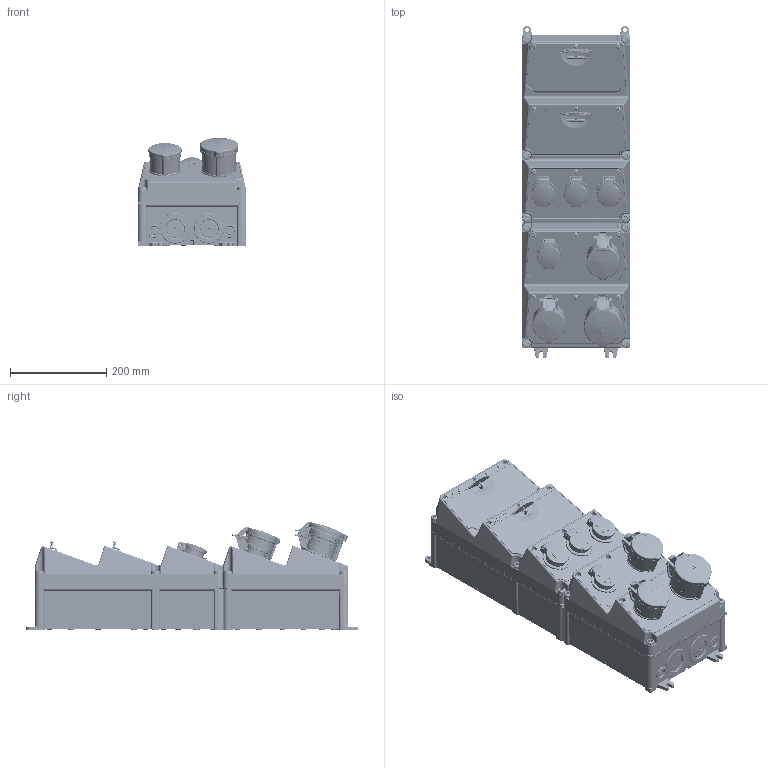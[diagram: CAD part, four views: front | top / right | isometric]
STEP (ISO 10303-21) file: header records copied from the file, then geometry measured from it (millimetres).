
FILE_DESCRIPTION((''),'2;1');
FILE_NAME('950007-2_ASM_1_ASM','2018-06-12T',('hoffmannf'),('MENNEKES'),'PRO/ENGINEER BY PARAMETRIC TECHNOLOGY CORPORATION, 2015440','PRO/ENGINEER BY PARAMETRIC TECHNOLOGY CORPORATION, 2015440','');
FILE_SCHEMA(('AUTOMOTIVE_DESIGN { 1 0 10303 214 1 1 1 1 }'));
Products named in the file (15): 5-4_SW_O_GRAU_1; MANIFOLD_SOLID_BREP_336604; MANIFOLD_SOLID_BREP_424967; MANIFOLD_SOLID_BREP_425304; MANIFOLD_SOLID_BREP_427783; FI_4POL_4TE_1_ASM; LS_3POL_3TE_1; LS_1POL_1TE_1; MP_FEN10_44_OBEN_GRAU_1; MP_LEER_GRAU_1; BAUTEIL_DUMMY__1; AMAXX_CEE_32_5_44_ROT_1; AMAXX_CEE_16_5_44_ROT_1; AMAXX_SCHUKO_44_BLAU_1; 950007-2_ASM_1_ASM
Assembly tree (26 placements, depth 3):
  950007-2_ASM_1_ASM
    5-4_SW_O_GRAU_1
    FI_4POL_4TE_1_ASM
      MANIFOLD_SOLID_BREP_336604
      MANIFOLD_SOLID_BREP_424967
      MANIFOLD_SOLID_BREP_425304
      MANIFOLD_SOLID_BREP_427783
    LS_3POL_3TE_1  x3
    LS_1POL_1TE_1  x4
    MP_FEN10_44_OBEN_GRAU_1  x2
    MP_LEER_GRAU_1  x3
    BAUTEIL_DUMMY__1
    AMAXX_CEE_32_5_44_ROT_1
    AMAXX_CEE_16_5_44_ROT_1  x2
    AMAXX_SCHUKO_44_BLAU_1  x4
Bounding box: 225 x 688.2 x 225.76 mm (x, y, z)
Volume: 16991136.4 mm3; surface area: 1806120 mm2
Topology: 24 solids, 24 shells, 20177 faces, 55748 edges, 35654 vertices
Faces by surface type: plane 9301, cylinder 5693, bspline 2045, torus 1723, cone 540, sphere 500, extrusion 375
Entity records: 633282 total; most frequent: CARTESIAN_POINT 200606, ORIENTED_EDGE 72528, DIRECTION 63217, EDGE_CURVE 36264, VERTEX_POINT 23063, AXIS2_PLACEMENT_3D 22522, PRESENTATION_STYLE_ASSIGNMENT 19898, STYLED_ITEM 18773
